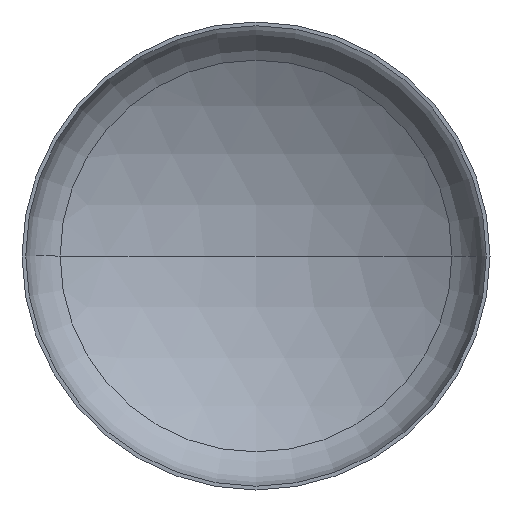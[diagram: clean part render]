
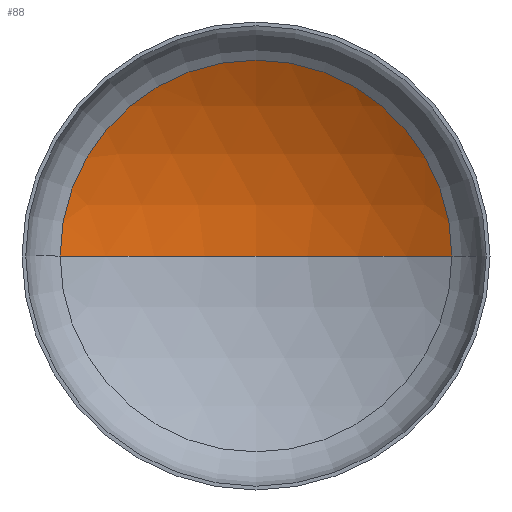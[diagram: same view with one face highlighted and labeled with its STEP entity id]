
A CAD part, front view. The second image highlights one B-rep face of the part: STEP entity #88.
In plain terms, the highlighted spherical face has radius 4800 mm.
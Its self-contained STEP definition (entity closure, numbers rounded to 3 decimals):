
#32 = ORIENTED_EDGE ( 'NONE', *, *, #169, .F. ) ;
#76 = AXIS2_PLACEMENT_3D ( 'NONE', #244, #183, #163 ) ;
#81 = VERTEX_POINT ( 'NONE', #277 ) ;
#86 = AXIS2_PLACEMENT_3D ( 'NONE', #398, #214, #215 ) ;
#88 = ADVANCED_FACE ( 'NONE', ( #364 ), #132, .F. ) ;
#94 = AXIS2_PLACEMENT_3D ( 'NONE', #202, #203, #185 ) ;
#95 = EDGE_LOOP ( 'NONE', ( #32, #248, #120 ) ) ;
#100 = VERTEX_POINT ( 'NONE', #262 ) ;
#120 = ORIENTED_EDGE ( 'NONE', *, *, #158, .T. ) ;
#124 = VERTEX_POINT ( 'NONE', #217 ) ;
#131 = AXIS2_PLACEMENT_3D ( 'NONE', #243, #271, #237 ) ;
#132 = SPHERICAL_SURFACE ( 'NONE', #131, 4800. ) ;
#137 = CIRCLE ( 'NONE', #76, 4800. ) ;
#158 = EDGE_CURVE ( 'NONE', #100, #124, #348, .T. ) ;
#161 = EDGE_CURVE ( 'NONE', #81, #100, #282, .T. ) ;
#163 = DIRECTION ( 'NONE',  ( 1., 0., 0. ) ) ;
#169 = EDGE_CURVE ( 'NONE', #81, #124, #137, .T. ) ;
#183 = DIRECTION ( 'NONE',  ( 0., 0., 1. ) ) ;
#185 = DIRECTION ( 'NONE',  ( 1., 0., 0. ) ) ;
#202 = CARTESIAN_POINT ( 'NONE',  ( 0., 938.353, 0. ) ) ;
#203 = DIRECTION ( 'NONE',  ( 0., -1., 0. ) ) ;
#214 = DIRECTION ( 'NONE',  ( 0., 0., -1. ) ) ;
#215 = DIRECTION ( 'NONE',  ( -1., 0., 0. ) ) ;
#217 = CARTESIAN_POINT ( 'NONE',  ( -2510.865, 938.353, 0. ) ) ;
#237 = DIRECTION ( 'NONE',  ( -1., 0., 0. ) ) ;
#243 = CARTESIAN_POINT ( 'NONE',  ( 0., -3152.559, 0. ) ) ;
#244 = CARTESIAN_POINT ( 'NONE',  ( 0., -3152.559, 0. ) ) ;
#248 = ORIENTED_EDGE ( 'NONE', *, *, #161, .T. ) ;
#262 = CARTESIAN_POINT ( 'NONE',  ( 2510.865, 938.353, 0. ) ) ;
#271 = DIRECTION ( 'NONE',  ( 0., 0., -1. ) ) ;
#277 = CARTESIAN_POINT ( 'NONE',  ( 0., 1647.441, 0. ) ) ;
#282 = CIRCLE ( 'NONE', #86, 4800. ) ;
#348 = CIRCLE ( 'NONE', #94, 2510.865 ) ;
#364 = FACE_OUTER_BOUND ( 'NONE', #95, .T. ) ;
#398 = CARTESIAN_POINT ( 'NONE',  ( 0., -3152.559, 0. ) ) ;
